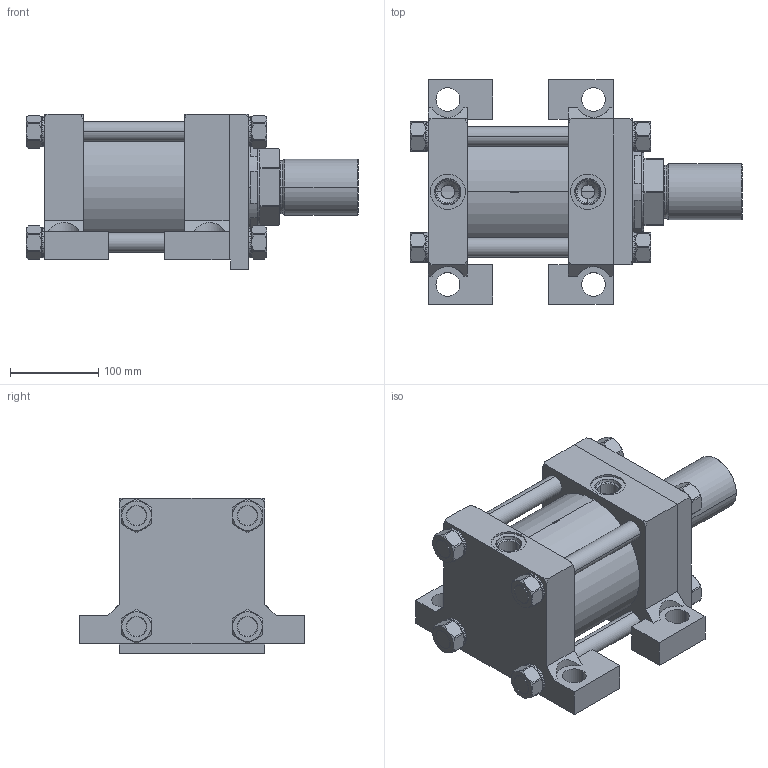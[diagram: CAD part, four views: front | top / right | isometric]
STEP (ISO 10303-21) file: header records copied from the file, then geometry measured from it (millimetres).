
FILE_DESCRIPTION (( 'STEP AP214' ), '1' );
FILE_NAME ('5.00CP2HHNAT124A2.000.step', '2026-03-26T21:15:55', ( '' ), ( '' ), 'SwSTEP 2.0', 'SolidWorks 2023', '' );
FILE_SCHEMA (( 'AUTOMOTIVE_DESIGN' ));
Length unit declared in the file: inch
Products named in the file (1): 5.00CP2HHNAT124A2.000
Bounding box: 376.24 x 254 x 176.21 mm (x, y, z)
Volume: 5725539.1 mm3; surface area: 750167.7 mm2
Topology: 44 solids, 44 shells, 1221 faces, 3151 edges, 2026 vertices
Faces by surface type: plane 801, cylinder 221, cone 161, bspline 30, torus 8
Entity records: 55308 total; most frequent: CARTESIAN_POINT 11033, ORIENTED_EDGE 6302, DIRECTION 5183, EDGE_CURVE 3151, VERTEX_POINT 2026, AXIS2_PLACEMENT_3D 1756, VECTOR 1671, LINE 1671
